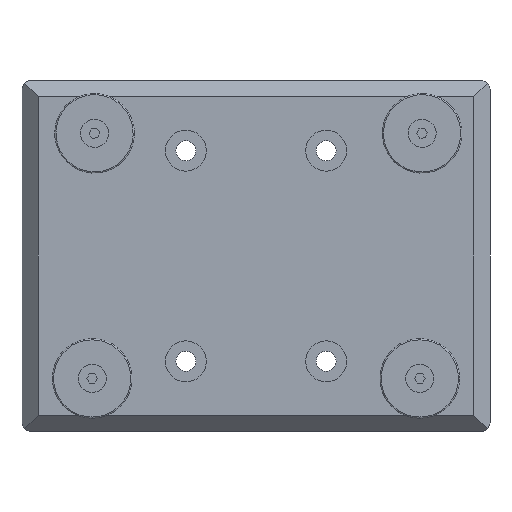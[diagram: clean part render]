
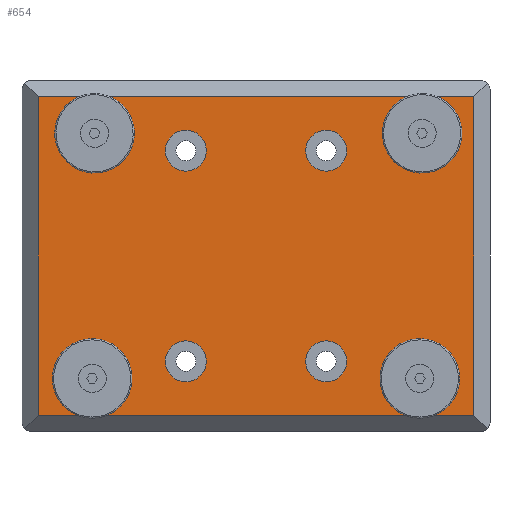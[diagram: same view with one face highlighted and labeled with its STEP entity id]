
A CAD part, front view. The second image highlights one B-rep face of the part: STEP entity #654.
In plain terms, the highlighted planar face has unit normal (0, -1, 0).
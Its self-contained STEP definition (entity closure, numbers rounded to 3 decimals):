
#654=ADVANCED_FACE('',(#932,#933,#934,#935,#936,#937,#938,#939,#940),#941,.T.);
#932=FACE_BOUND('',#1602,.T.);
#933=FACE_BOUND('',#1603,.T.);
#934=FACE_BOUND('',#1604,.T.);
#935=FACE_BOUND('',#1605,.T.);
#936=FACE_BOUND('',#1606,.T.);
#937=FACE_BOUND('',#1607,.T.);
#938=FACE_BOUND('',#1608,.T.);
#939=FACE_BOUND('',#1609,.T.);
#940=FACE_OUTER_BOUND('',#1610,.T.);
#941=PLANE('',#1611);
#1602=EDGE_LOOP('',(#2287));
#1603=EDGE_LOOP('',(#2288));
#1604=EDGE_LOOP('',(#2289));
#1605=EDGE_LOOP('',(#2290));
#1606=EDGE_LOOP('',(#2291));
#1607=EDGE_LOOP('',(#2292));
#1608=EDGE_LOOP('',(#2293));
#1609=EDGE_LOOP('',(#2294));
#1610=EDGE_LOOP('',(#2295,#2296,#2297,#2298));
#1611=AXIS2_PLACEMENT_3D('',#2299,#2300,#2301);
#2287=ORIENTED_EDGE('',*,*,#4134,.F.);
#2288=ORIENTED_EDGE('',*,*,#4135,.F.);
#2289=ORIENTED_EDGE('',*,*,#4136,.F.);
#2290=ORIENTED_EDGE('',*,*,#4137,.F.);
#2291=ORIENTED_EDGE('',*,*,#4138,.T.);
#2292=ORIENTED_EDGE('',*,*,#4139,.T.);
#2293=ORIENTED_EDGE('',*,*,#4140,.T.);
#2294=ORIENTED_EDGE('',*,*,#4141,.T.);
#2295=ORIENTED_EDGE('',*,*,#4142,.T.);
#2296=ORIENTED_EDGE('',*,*,#4143,.T.);
#2297=ORIENTED_EDGE('',*,*,#4144,.F.);
#2298=ORIENTED_EDGE('',*,*,#4145,.T.);
#2299=CARTESIAN_POINT('',(96.0,-16.0,-71.0));
#2300=DIRECTION('',(0.,-1.0,0.));
#2301=DIRECTION('',(1.0,0.,0.));
#4134=EDGE_CURVE('',#4660,#4660,#4661,.T.);
#4135=EDGE_CURVE('',#4662,#4662,#4663,.T.);
#4136=EDGE_CURVE('',#4664,#4664,#4665,.T.);
#4137=EDGE_CURVE('',#4666,#4666,#4667,.T.);
#4138=EDGE_CURVE('',#4668,#4668,#4669,.T.);
#4139=EDGE_CURVE('',#4670,#4670,#4671,.T.);
#4140=EDGE_CURVE('',#4672,#4672,#4673,.T.);
#4141=EDGE_CURVE('',#4674,#4674,#4675,.T.);
#4142=EDGE_CURVE('',#4676,#4677,#4678,.T.);
#4143=EDGE_CURVE('',#4677,#4679,#4680,.T.);
#4144=EDGE_CURVE('',#4681,#4679,#4682,.T.);
#4145=EDGE_CURVE('',#4681,#4676,#4683,.T.);
#4660=VERTEX_POINT('',#5544);
#4661=CIRCLE('',#5545,5.0);
#4662=VERTEX_POINT('',#5546);
#4663=CIRCLE('',#5547,5.0);
#4664=VERTEX_POINT('',#5548);
#4665=CIRCLE('',#5549,5.0);
#4666=VERTEX_POINT('',#5550);
#4667=CIRCLE('',#5551,5.0);
#4668=VERTEX_POINT('',#5552);
#4669=CIRCLE('',#5553,8.75);
#4670=VERTEX_POINT('',#5554);
#4671=CIRCLE('',#5555,8.75);
#4672=VERTEX_POINT('',#5556);
#4673=CIRCLE('',#5557,8.75);
#4674=VERTEX_POINT('',#5558);
#4675=CIRCLE('',#5559,8.75);
#4676=VERTEX_POINT('',#5560);
#4677=VERTEX_POINT('',#5561);
#4678=LINE('',#5562,#5563);
#4679=VERTEX_POINT('',#5564);
#4680=LINE('',#5565,#5566);
#4681=VERTEX_POINT('',#5567);
#4682=LINE('',#5568,#5569);
#4683=LINE('',#5570,#5571);
#5544=CARTESIAN_POINT('',(-70.0,-16.0,-57.32));
#5545=AXIS2_PLACEMENT_3D('',#7202,#7203,#7204);
#5546=CARTESIAN_POINT('',(-70.0,-16.0,47.32));
#5547=AXIS2_PLACEMENT_3D('',#7205,#7206,#7207);
#5548=CARTESIAN_POINT('',(70.0,-16.0,47.32));
#5549=AXIS2_PLACEMENT_3D('',#7208,#7209,#7210);
#5550=CARTESIAN_POINT('',(70.0,-16.0,-57.32));
#5551=AXIS2_PLACEMENT_3D('',#7211,#7212,#7213);
#5552=CARTESIAN_POINT('',(30.0,-16.0,53.75));
#5553=AXIS2_PLACEMENT_3D('',#7214,#7215,#7216);
#5554=CARTESIAN_POINT('',(-30.0,-16.0,53.75));
#5555=AXIS2_PLACEMENT_3D('',#7217,#7218,#7219);
#5556=CARTESIAN_POINT('',(-30.0,-16.0,-36.25));
#5557=AXIS2_PLACEMENT_3D('',#7220,#7221,#7222);
#5558=CARTESIAN_POINT('',(30.0,-16.0,-36.25));
#5559=AXIS2_PLACEMENT_3D('',#7223,#7224,#7225);
#5560=CARTESIAN_POINT('',(93.0,-16.0,68.0));
#5561=CARTESIAN_POINT('',(-93.0,-16.0,68.0));
#5562=CARTESIAN_POINT('',(414.536,-16.0,68.0));
#5563=VECTOR('',#7226,1.0);
#5564=CARTESIAN_POINT('',(-93.0,-16.0,-68.0));
#5565=CARTESIAN_POINT('',(-93.0,-16.0,-68.0));
#5566=VECTOR('',#7227,1.0);
#5567=CARTESIAN_POINT('',(93.0,-16.0,-68.0));
#5568=CARTESIAN_POINT('',(414.536,-16.0,-68.0));
#5569=VECTOR('',#7228,1.0);
#5570=CARTESIAN_POINT('',(93.0,-16.0,68.0));
#5571=VECTOR('',#7229,1.0);
#7202=CARTESIAN_POINT('',(-70.0,-16.0,-52.32));
#7203=DIRECTION('',(0.,-1.0,0.));
#7204=DIRECTION('',(0.,0.,-1.0));
#7205=CARTESIAN_POINT('',(-70.0,-16.0,52.32));
#7206=DIRECTION('',(0.,-1.0,0.));
#7207=DIRECTION('',(0.,0.,-1.0));
#7208=CARTESIAN_POINT('',(70.0,-16.0,52.32));
#7209=DIRECTION('',(0.,-1.0,0.));
#7210=DIRECTION('',(0.,0.,-1.0));
#7211=CARTESIAN_POINT('',(70.0,-16.0,-52.32));
#7212=DIRECTION('',(0.,-1.0,0.));
#7213=DIRECTION('',(0.,0.,-1.0));
#7214=CARTESIAN_POINT('',(30.0,-16.0,45.0));
#7215=DIRECTION('',(0.,1.0,0.));
#7216=DIRECTION('',(0.,0.,1.0));
#7217=CARTESIAN_POINT('',(-30.0,-16.0,45.0));
#7218=DIRECTION('',(0.,1.0,0.));
#7219=DIRECTION('',(0.,0.,1.0));
#7220=CARTESIAN_POINT('',(-30.0,-16.0,-45.0));
#7221=DIRECTION('',(0.,1.0,0.));
#7222=DIRECTION('',(0.,0.,1.0));
#7223=CARTESIAN_POINT('',(30.0,-16.0,-45.0));
#7224=DIRECTION('',(0.,1.0,0.));
#7225=DIRECTION('',(0.,0.,1.0));
#7226=DIRECTION('',(-1.0,0.,0.));
#7227=DIRECTION('',(0.,0.0,-1.0));
#7228=DIRECTION('',(-1.0,0.,0.));
#7229=DIRECTION('',(0.,0.0,1.0));
